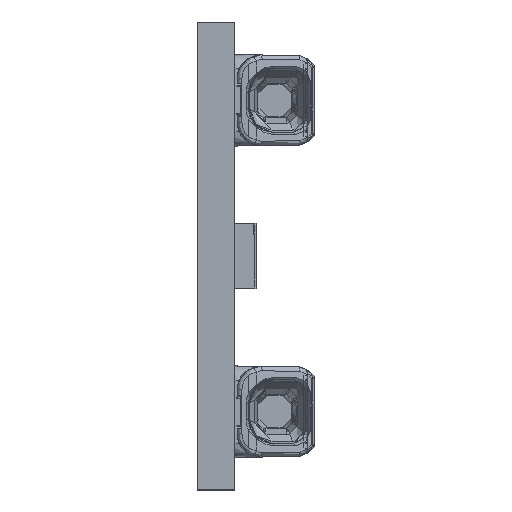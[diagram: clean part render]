
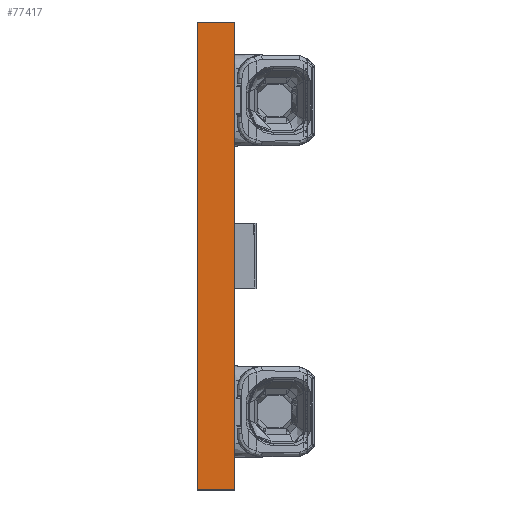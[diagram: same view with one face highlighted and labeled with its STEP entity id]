
A CAD part, left-side view. The second image highlights one B-rep face of the part: STEP entity #77417.
In plain terms, the highlighted planar face has unit normal (-1, 0, 0).
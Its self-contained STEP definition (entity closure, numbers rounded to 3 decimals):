
#2447=ORIENTED_EDGE('',*,*,#18425,.T.);
#2448=ORIENTED_EDGE('',*,*,#18752,.F.);
#2449=ORIENTED_EDGE('',*,*,#18705,.F.);
#2450=ORIENTED_EDGE('',*,*,#18753,.T.);
#18425=EDGE_CURVE('',#26613,#26612,#31965,.T.);
#18705=EDGE_CURVE('',#26892,#26893,#32177,.T.);
#18752=EDGE_CURVE('',#26893,#26612,#32218,.T.);
#18753=EDGE_CURVE('',#26892,#26613,#32219,.T.);
#26612=VERTEX_POINT('',#99174);
#26613=VERTEX_POINT('',#99176);
#26892=VERTEX_POINT('',#99735);
#26893=VERTEX_POINT('',#99737);
#31965=LINE('',#99175,#39217);
#32177=LINE('',#99736,#39429);
#32218=LINE('',#99829,#39470);
#32219=LINE('',#99831,#39471);
#39217=VECTOR('',#84566,1000.);
#39429=VECTOR('',#84916,1000.);
#39470=VECTOR('',#85015,1000.);
#39471=VECTOR('',#85018,1000.);
#46011=EDGE_LOOP('',(#2447,#2448,#2449,#2450));
#49465=FACE_BOUND('',#46011,.T.);
#52766=PLANE('',#80650);
#77417=ADVANCED_FACE('',(#49465),#52766,.F.);
#80650=AXIS2_PLACEMENT_3D('',#99830,#85016,#85017);
#84566=DIRECTION('',(0.,0.,1.));
#84916=DIRECTION('',(0.,0.,1.));
#85015=DIRECTION('',(0.,-1.,0.));
#85016=DIRECTION('',(1.,0.,0.));
#85017=DIRECTION('',(0.,0.,-1.));
#85018=DIRECTION('',(0.,-1.,0.));
#99174=CARTESIAN_POINT('',(-560.,0.,10.));
#99175=CARTESIAN_POINT('',(-560.,0.,10.));
#99176=CARTESIAN_POINT('',(-560.,0.,-10.));
#99735=CARTESIAN_POINT('',(-560.,1.6,-10.));
#99736=CARTESIAN_POINT('',(-560.,1.6,10.));
#99737=CARTESIAN_POINT('',(-560.,1.6,10.));
#99829=CARTESIAN_POINT('',(-560.,1.6,10.));
#99830=CARTESIAN_POINT('',(-560.,1.6,10.));
#99831=CARTESIAN_POINT('',(-560.,1.6,-10.));
